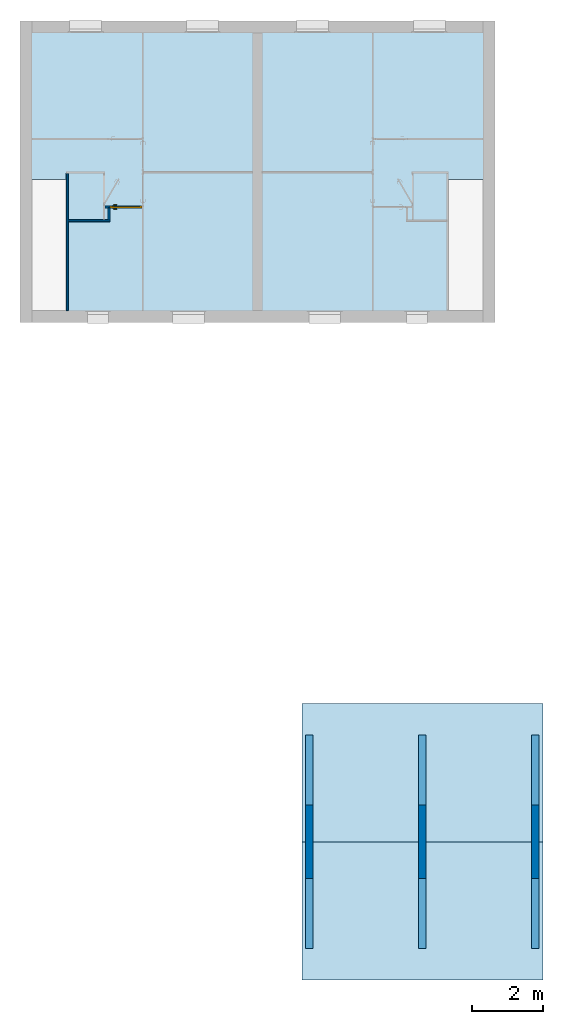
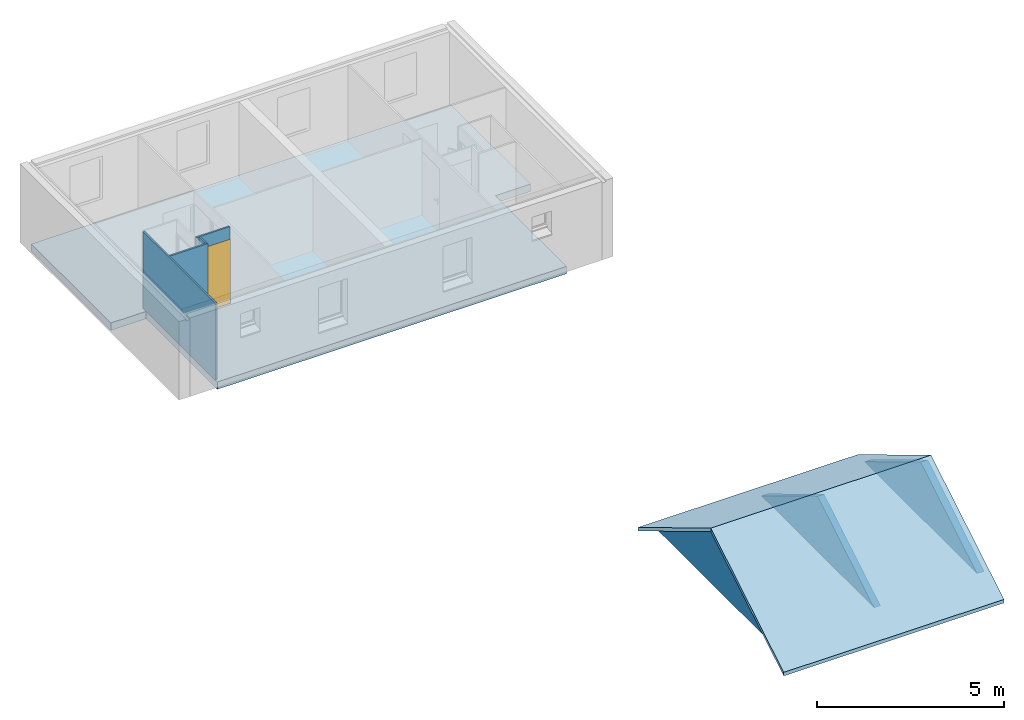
# One storey, part 1 of 13: 7 walls, 3 slabs, 1 door, 1 opening, 1 element without a shape of its own.
"""IFC2X3 building model written with IfcOpenShell, lengths in metres."""

from ifc_helpers import new_model, entity, si_unit, converted_unit, derived_unit, direction, frame, frame_2d, origin, place, context, subcontext, project, spatial, polyline, rectangle, outline, extrude, clip, halfspace, bounded_halfspace, faceted_brep, source, transform, mapped, material, material_list, layer, layer_set, layer_usage, type_object, type_shapes, element, fill, aggregate, save


model = new_model("IFC2X3")

# Units and contexts
model_context = context("Model", 3, precision=1e-05, world=origin(), true_north=direction((6.12303176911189e-17, 1.0)))
context_of_model = context(None, 3, precision=1e-05, world=origin(), true_north=direction((6.12303176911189e-17, 1.0)))
body_context = subcontext(model_context, "Body", "Model", "MODEL_VIEW")
ifc_project = project(units=[si_unit("LENGTHUNIT", "METRE"), si_unit("AREAUNIT", "SQUARE_METRE"), si_unit("VOLUMEUNIT", "CUBIC_METRE"), converted_unit("PLANEANGLEUNIT", "DEGREE", entity("IfcRatioMeasure", 0.0174532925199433), si_unit("PLANEANGLEUNIT", "RADIAN"), dimensions=[0, 0, 0, 0, 0, 0, 0]), si_unit("MASSUNIT", "GRAM", prefix="KILO"), si_unit("TIMEUNIT", "SECOND"), si_unit("FREQUENCYUNIT", "HERTZ"), si_unit("THERMODYNAMICTEMPERATUREUNIT", "DEGREE_CELSIUS"), derived_unit("THERMALTRANSMITTANCEUNIT", [(si_unit("MASSUNIT", "GRAM", prefix="KILO"), 1), (si_unit("THERMODYNAMICTEMPERATUREUNIT", "KELVIN"), -1), (si_unit("TIMEUNIT", "SECOND"), -3)]), derived_unit("VOLUMETRICFLOWRATEUNIT", [(si_unit("LENGTHUNIT", "METRE"), 3), (si_unit("TIMEUNIT", "SECOND"), -1)]), si_unit("ELECTRICCURRENTUNIT", "AMPERE"), si_unit("ELECTRICVOLTAGEUNIT", "VOLT"), si_unit("POWERUNIT", "WATT"), si_unit("FORCEUNIT", "NEWTON", prefix="KILO"), si_unit("ILLUMINANCEUNIT", "LUX"), si_unit("LUMINOUSFLUXUNIT", "LUMEN"), si_unit("LUMINOUSINTENSITYUNIT", "CANDELA"), derived_unit("USERDEFINED", [(si_unit("MASSUNIT", "GRAM", prefix="KILO"), -1), (si_unit("LENGTHUNIT", "METRE"), -2), (si_unit("TIMEUNIT", "SECOND"), 3), (si_unit("LUMINOUSFLUXUNIT", "LUMEN"), 1)]), derived_unit("LINEARVELOCITYUNIT", [(si_unit("LENGTHUNIT", "METRE"), 1), (si_unit("TIMEUNIT", "SECOND"), -1)]), si_unit("PRESSUREUNIT", "PASCAL"), derived_unit("USERDEFINED", [(si_unit("LENGTHUNIT", "METRE"), -2), (si_unit("MASSUNIT", "GRAM", prefix="KILO"), 1), (si_unit("TIMEUNIT", "SECOND"), -2)])], contexts=[model_context, context_of_model])

# Site, building, storey
site_placement = place(None, origin())
site = spatial("IfcSite", under=ifc_project, at=site_placement, Name="Surface", CompositionType="ELEMENT")
building_placement = place(site_placement, origin())
building = spatial("IfcBuilding", under=site, at=building_placement, CompositionType="ELEMENT")
storey_placement = place(building_placement, frame((0.0, 0.0, 2.74)))
storey = spatial("IfcBuildingStorey", under=building, at=storey_placement, Name="Plan étage", CompositionType="ELEMENT", Elevation=2.74)

# Slab
ifc_material_1 = material(Name="<Unnamed>")
ifc_layer_1 = layer(ifc_material_1, 0.01)
ifc_material_2 = material(Name="Maçonnerie - Béton")
ifc_layer_2 = layer(ifc_material_2, 0.22)
ifc_layer_3 = layer(ifc_material_1, 0.01)
ifc_layer_set_1 = layer_set([ifc_layer_1, ifc_layer_2, ifc_layer_3], Name="Sol:Dalle Béton -160 + 60 mm")
ifc_layer_usage_1 = layer_usage(ifc_layer_set_1, "AXIS3", "POSITIVE", 0.0)
slab_1_placement = place(storey_placement, origin())
element("IfcSlab", 1, at=slab_1_placement, inside=storey, material=ifc_layer_usage_1, Name="Sol:Dalle Béton -160 + 60 mm", ObjectType="Sol:Dalle Béton -160 + 60 mm", PredefinedType="FLOOR", context=body_context, shape_type="SweptSolid", body=[
    extrude(outline(polyline([(-0.112749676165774, -6.47999999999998), (4.14341655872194, -6.47999999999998), (4.14341655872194, 6.47999999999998), (-0.114083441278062, 6.47999999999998), (-0.114083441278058, 5.38999999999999), (-3.9165834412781, 5.38999999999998), (-3.9165834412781, -5.38999999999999), (-0.112749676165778, -5.38999999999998), (-0.112749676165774, -6.47999999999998)])), frame((-4.93608881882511, 1.32083922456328, 0.0), z_axis=(0.0, 0.0, -1.0), x_axis=(0.0, 1.0, 0.0)), (0.0, 0.0, 1.0), 0.24),
])

# Roof, slabs
roof_placement = place(storey_placement, frame((-3.68506493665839, -21.3735833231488, -0.530344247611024)))
roof = element("IfcRoof", 2, at=roof_placement, inside=storey, Name="Toit de base:Toit - 100 mm 2", ObjectType="Toit de base:Toit - 100 mm 2", ShapeType="NOTDEFINED")
ifc_material_3 = material(Name="Toit par défaut")
ifc_layer_4 = layer(ifc_material_3, 0.1)
ifc_layer_set_2 = layer_set([ifc_layer_4], Name="Toit de base:Toit - 100 mm 2")
slab_2_placement = place(roof_placement, origin())
slab_2 = element("IfcSlab", 3, at=slab_2_placement, material=ifc_layer_set_2, Name="Toit de base:Toit - 100 mm 2", ObjectType="Toit de base:Toit - 100 mm 2", PredefinedType="ROOF", context=body_context, shape_type="SweptSolid", body=[
    extrude(rectangle(XDim=6.80000000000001, YDim=4.54987024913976, at=frame_2d((1.99840144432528e-15, 3.77475828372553e-15), x_axis=(1.0, 0.0))), frame((3.40000000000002, 5.85000000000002, 1.17167820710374), z_axis=(0.0, 0.515038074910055, 0.857167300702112), x_axis=(1.0, 0.0, 0.0)), (0.0, -0.515038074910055, 0.857167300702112), 0.116663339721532),
])
slab_3_placement = place(roof_placement, origin())
slab_3 = element("IfcSlab", 4, at=slab_3_placement, material=ifc_layer_set_2, Name="Toit de base:Toit - 100 mm 2", ObjectType="Toit de base:Toit - 100 mm 2", PredefinedType="ROOF", context=body_context, shape_type="SweptSolid", body=[
    extrude(rectangle(XDim=4.5498702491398, YDim=6.8, at=frame_2d((0.0, 0.0), x_axis=(0.0, 1.0))), frame((3.4, 1.95000000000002, 1.17167820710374), z_axis=(0.0, -0.515038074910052, 0.857167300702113), x_axis=(1.0, 0.0, 0.0)), (0.0, 0.515038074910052, 0.857167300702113), 0.116663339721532),
])
aggregate(roof, [slab_2, slab_3])

# Walls
ifc_material_4 = material(Name="Maçonnerie - Isolant(1)")
ifc_layer_5 = layer(ifc_material_4, 0.05)
ifc_layer_set_3 = layer_set([ifc_layer_5], Name="Mur de base:Int. plâtre 50 mm")
ifc_layer_usage_2 = layer_usage(ifc_layer_set_3, "AXIS2", "NEGATIVE", 0.025)
wall_type_1 = type_object("IfcWallType", Name="Mur de base:Int. plâtre 50 mm", PredefinedType="STANDARD", material=ifc_layer_set_3)
wall_1_placement = place(storey_placement, frame((-9.10108881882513, 0.049255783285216, -0.00999999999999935), z_axis=(0.0, 0.0, 1.0), x_axis=(-1.0, 0.0, 0.0)))
element("IfcWallStandardCase", 5, at=wall_1_placement, inside=storey, type_object=wall_type_1, material=ifc_layer_usage_2, Name="Mur de base:Int. plâtre 50 mm", ObjectType="Mur de base:Int. plâtre 50 mm", context=body_context, shape_type="SweptSolid", body=[
    extrude(rectangle(XDim=1.17499999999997, YDim=0.05, at=frame_2d((0.587499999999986, 0.0), x_axis=(-1.0, 0.0))), origin(), (0.0, 0.0, 1.0), 2.51),
])
ifc_layer_usage_3 = layer_usage(ifc_layer_set_3, "AXIS2", "NEGATIVE", 0.025)
wall_2_placement = place(storey_placement, frame((-10.3010888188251, -2.48574421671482, -0.00999999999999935), z_axis=(0.0, 0.0, 1.0), x_axis=(0.0, 1.0, 0.0)))
element("IfcWallStandardCase", 6, at=wall_2_placement, inside=storey, type_object=wall_type_1, material=ifc_layer_usage_3, Name="Mur de base:Int. plâtre 50 mm", ObjectType="Mur de base:Int. plâtre 50 mm", context=body_context, shape_type="SweptSolid", body=[
    extrude(rectangle(XDim=3.87000000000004, YDim=0.0500000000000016, at=frame_2d((1.93500000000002, 0.0), x_axis=(-1.0, 0.0))), origin(), (0.0, 0.0, 1.0), 2.51),
])

# Wall, opening, door
ifc_layer_usage_4 = layer_usage(ifc_layer_set_3, "AXIS2", "NEGATIVE", 0.025)
wall_3_placement = place(storey_placement, frame((-9.24108881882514, 0.439255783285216, -0.00999999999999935)))
wall_3 = element("IfcWallStandardCase", 7, at=wall_3_placement, inside=storey, type_object=wall_type_1, material=ifc_layer_usage_4, Name="Mur de base:Int. plâtre 50 mm", ObjectType="Mur de base:Int. plâtre 50 mm", context=body_context, shape_type="SweptSolid", body=[
    extrude(rectangle(XDim=1.045, YDim=0.05, at=frame_2d((0.522499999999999, 0.0), x_axis=(-1.0, 0.0))), origin(), (0.0, 0.0, 1.0), 2.51),
])
opening_placement = place(wall_3_placement, frame((1.04250000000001, 0.025, 0.00999999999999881)))
opening = element("IfcOpeningElement", 8, at=opening_placement, cuts=wall_3, Name="Int. Simple:PP (0.83m x 2.04m):1", ObjectType="Opening", context=body_context, shape_type="SweptSolid", body=[
    extrude(rectangle(XDim=2.075, YDim=0.9, at=frame_2d((1.0375, 0.45), x_axis=(1.0, 0.0))), frame((0.0, 0.0, 0.0), z_axis=(0.0, -1.0, 0.0), x_axis=(0.0, 0.0, 1.0)), (0.0, 0.0, 1.0), 0.05),
])
ifc_material_5 = material(Name="Finition Peinture - Blanc satiné")
ifc_material_6 = material(Name="Bois - Panneau de porte")
ifc_material_7 = material(Name="Bois - Cadre de porte")
ifc_material_list_1 = material_list([ifc_material_5, ifc_material_6, ifc_material_7])
ifc_material_list_2 = material_list([ifc_material_5, ifc_material_6, ifc_material_7])
door_style = type_object("IfcDoorStyle", Name="PP (0.83m x 2.04m)", ConstructionType="NOTDEFINED", OperationType="SINGLE_SWING_LEFT", ParameterTakesPrecedence=False, Sizeable=False, material=ifc_material_list_2)
shared_shape = source(origin(), body_context, "Body", "Brep", [
    faceted_brep([(0.105352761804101, -0.00500000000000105, 0.866003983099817), (0.115, -0.00500000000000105, 0.870000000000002), (0.114999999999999, -0.00500000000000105, 1.08), (0.1053527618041, -0.00500000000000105, 1.08399601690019), (0.0949999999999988, -0.00500000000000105, 1.08535898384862), (0.0846472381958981, -0.00500000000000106, 1.08399601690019), (0.0749999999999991, -0.00500000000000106, 1.08), (0.0750000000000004, -0.00500000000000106, 0.870000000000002), (0.0846472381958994, -0.00500000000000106, 0.866003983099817), (0.0950000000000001, -0.00500000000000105, 0.86464101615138), (0.1053527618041, 0.0, 1.08399601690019), (0.114999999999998, 0.0, 1.08), (0.115, 0.0, 0.870000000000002), (0.105352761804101, 0.0, 0.866003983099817), (0.0950000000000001, 0.0, 0.86464101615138), (0.0846472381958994, 0.0, 0.866003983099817), (0.0749999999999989, 0.0, 0.870000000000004), (0.0749999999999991, 0.0, 1.08), (0.0846472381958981, 0.0, 1.08399601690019), (0.0949999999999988, 0.0, 1.08535898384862)], [[[0, 1, 2, 3, 4, 5, 6, 7, 8, 9]], [[10, 11, 12, 13, 14, 15, 16, 17, 18, 19]], [[16, 15, 8, 7]], [[8, 15, 14, 9]], [[14, 13, 0, 9]], [[13, 12, 1, 0]], [[2, 1, 12, 11]], [[11, 10, 3, 2]], [[3, 10, 19, 4]], [[19, 18, 5, 4]], [[18, 17, 6, 5]], [[7, 6, 17, 16]]]),
    faceted_brep([(0.105352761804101, 0.0399999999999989, 0.866003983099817), (0.115, 0.0399999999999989, 0.870000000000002), (0.114999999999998, 0.0399999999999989, 1.08), (0.105352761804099, 0.0399999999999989, 1.08399601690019), (0.0949999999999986, 0.0399999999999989, 1.08535898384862), (0.084647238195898, 0.0399999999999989, 1.08399601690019), (0.0749999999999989, 0.0399999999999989, 1.08), (0.0750000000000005, 0.0399999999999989, 0.870000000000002), (0.0846472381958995, 0.0399999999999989, 0.866003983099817), (0.0950000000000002, 0.0399999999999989, 0.86464101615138), (0.105352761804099, 0.0449999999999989, 1.08399601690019), (0.114999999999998, 0.0449999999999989, 1.08), (0.115, 0.0449999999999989, 0.870000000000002), (0.105352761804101, 0.0449999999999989, 0.866003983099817), (0.0950000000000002, 0.0449999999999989, 0.86464101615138), (0.0846472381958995, 0.0449999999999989, 0.866003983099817), (0.0749999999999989, 0.0449999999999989, 0.870000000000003), (0.0749999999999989, 0.0449999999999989, 1.08), (0.084647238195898, 0.0449999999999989, 1.08399601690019), (0.0949999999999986, 0.0449999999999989, 1.08535898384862)], [[[0, 1, 2, 3, 4, 5, 6, 7, 8, 9]], [[10, 11, 12, 13, 14, 15, 16, 17, 18, 19]], [[11, 10, 3, 2]], [[3, 10, 19, 4]], [[19, 18, 5, 4]], [[18, 17, 6, 5]], [[7, 6, 17, 16]], [[16, 15, 8, 7]], [[8, 15, 14, 9]], [[14, 13, 0, 9]], [[13, 12, 1, 0]], [[2, 1, 12, 11]]]),
    faceted_brep([(0.0929747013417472, -0.00500000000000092, 1.00778044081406), (0.0970252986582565, -0.0050000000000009, 1.00778044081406), (0.101000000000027, -0.00500000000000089, 1.00699999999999), (0.101000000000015, -0.00500000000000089, 0.993000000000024), (0.0970252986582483, -0.0050000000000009, 0.992219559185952), (0.0929747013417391, -0.00500000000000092, 0.99221955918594), (0.0889999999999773, -0.00500000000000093, 0.992999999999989), (0.0889999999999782, -0.00500000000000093, 1.007), (0.0889999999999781, -0.0326509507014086, 1.007), (0.092974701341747, -0.0310045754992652, 1.00778044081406), (0.10902358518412, -0.0470534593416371, 1.00778044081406), (0.110701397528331, -0.0430028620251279, 1.00778044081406), (0.0970252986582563, -0.0293267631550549, 1.00778044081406), (0.101000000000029, -0.0276803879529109, 1.007), (0.101000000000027, -0.0276803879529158, 0.993000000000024), (0.0970252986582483, -0.0293267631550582, 0.992219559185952), (0.110701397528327, -0.0430028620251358, 0.992219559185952), (0.109023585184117, -0.047053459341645, 0.99221955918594), (0.0929747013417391, -0.0310045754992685, 0.99221955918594), (0.0889999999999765, -0.0326509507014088, 0.992999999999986), (0.107377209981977, -0.0510281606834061, 1.007), (0.112347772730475, -0.0390281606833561, 1.007), (0.112347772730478, -0.0390281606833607, 0.993000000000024), (0.107377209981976, -0.0510281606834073, 0.992999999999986), (0.195018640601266, -0.0510281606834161, 0.992999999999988), (0.195018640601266, -0.0470534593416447, 0.99221955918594), (0.195018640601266, -0.0430028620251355, 0.992219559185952), (0.195018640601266, -0.039028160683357, 0.993000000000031), (0.195018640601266, -0.0390281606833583, 1.007), (0.195018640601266, -0.0430028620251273, 1.00778044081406), (0.195018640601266, -0.0470534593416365, 1.00778044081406), (0.195018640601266, -0.0510281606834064, 1.00699999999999), (0.147307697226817, -0.0510281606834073, 1.007), (0.152860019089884, -0.045028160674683, 1.0078786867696), (0.15368320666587, -0.039028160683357, 1.007), (0.153683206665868, -0.0390281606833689, 0.993000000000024), (0.152860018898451, -0.0450281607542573, 0.992121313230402), (0.147307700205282, -0.0510281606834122, 0.992999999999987)], [[[0, 1, 2, 3, 4, 5, 6, 7]], [[8, 9, 0, 7]], [[9, 10, 11, 12, 1, 0]], [[12, 13, 2, 1]], [[3, 2, 13, 14]], [[14, 15, 4, 3]], [[15, 16, 17, 18, 5, 4]], [[18, 19, 6, 5]], [[7, 6, 19, 8]], [[20, 10, 9, 8]], [[11, 21, 13, 12]], [[14, 13, 21, 22]], [[22, 16, 15, 14]], [[17, 23, 19, 18]], [[8, 19, 23, 20]], [[24, 25, 26, 27, 28, 29, 30, 31]], [[32, 30, 33]], [[31, 30, 32]], [[10, 20, 32]], [[33, 34, 11]], [[21, 11, 34]], [[34, 29, 28]], [[30, 29, 33]], [[29, 34, 33]], [[10, 32, 33]], [[10, 33, 11]], [[22, 21, 34, 28, 27, 35]], [[35, 26, 36]], [[37, 36, 25]], [[22, 35, 16]], [[35, 27, 26]], [[24, 37, 25]], [[23, 17, 37]], [[37, 17, 36]], [[17, 16, 36]], [[16, 35, 36]], [[25, 36, 26]], [[20, 23, 37, 24, 31, 32]]]),
    faceted_brep([(0.0929747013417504, 0.0449999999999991, 1.00778044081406), (0.0889999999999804, 0.044999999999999, 1.007), (0.0889999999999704, 0.044999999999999, 0.992999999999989), (0.0929747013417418, 0.0449999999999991, 0.99221955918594), (0.0970252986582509, 0.0449999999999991, 0.992219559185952), (0.10100000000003, 0.0449999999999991, 0.993000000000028), (0.101000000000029, 0.0449999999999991, 1.007), (0.0970252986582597, 0.0449999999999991, 1.00778044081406), (0.10100000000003, 0.067485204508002, 0.993000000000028), (0.10100000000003, 0.0674852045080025, 1.007), (0.0970252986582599, 0.0691315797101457, 1.00778044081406), (0.110838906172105, 0.0829451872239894, 1.00778044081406), (0.109161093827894, 0.0869957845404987, 1.00778044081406), (0.0929747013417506, 0.070809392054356, 1.00778044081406), (0.0889999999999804, 0.0724557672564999, 1.007), (0.0889999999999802, 0.072455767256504, 0.992999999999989), (0.0929747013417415, 0.0708093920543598, 0.99221955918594), (0.109161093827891, 0.0869957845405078, 0.99221955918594), (0.110838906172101, 0.0829451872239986, 0.992219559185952), (0.0970252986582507, 0.0691315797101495, 0.992219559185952), (0.112485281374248, 0.0789704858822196, 0.993000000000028), (0.112485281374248, 0.0789704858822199, 1.007), (0.107514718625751, 0.0909704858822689, 1.007), (0.107514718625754, 0.090970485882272, 0.992999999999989), (0.195045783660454, 0.0789704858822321, 0.993000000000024), (0.195045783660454, 0.0829451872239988, 0.992219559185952), (0.195045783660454, 0.086995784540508, 0.99221955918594), (0.195045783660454, 0.0909704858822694, 0.992999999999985), (0.195045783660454, 0.0909704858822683, 1.007), (0.195045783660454, 0.0869957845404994, 1.00778044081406), (0.195045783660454, 0.0829451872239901, 1.00778044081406), (0.195045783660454, 0.0789704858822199, 1.007), (0.153765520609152, 0.0789704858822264, 0.993000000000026), (0.153765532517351, 0.0789704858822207, 1.007), (0.152942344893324, 0.0849704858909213, 1.0078786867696), (0.147445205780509, 0.0909704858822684, 1.007), (0.147445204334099, 0.0909704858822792, 0.992999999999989), (0.152942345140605, 0.0849704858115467, 0.992121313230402)], [[[0, 1, 2, 3, 4, 5, 6, 7]], [[6, 5, 8, 9]], [[9, 10, 7, 6]], [[10, 11, 12, 13, 0, 7]], [[13, 14, 1, 0]], [[2, 1, 14, 15]], [[15, 16, 3, 2]], [[16, 17, 18, 19, 4, 3]], [[19, 8, 5, 4]], [[9, 8, 20, 21]], [[21, 11, 10, 9]], [[12, 22, 14, 13]], [[15, 14, 22, 23]], [[23, 17, 16, 15]], [[18, 20, 8, 19]], [[24, 25, 26, 27, 28, 29, 30, 31]], [[21, 20, 32, 24, 31, 33]], [[33, 30, 34]], [[35, 34, 29]], [[21, 33, 11]], [[33, 31, 30]], [[28, 35, 29]], [[22, 12, 35]], [[35, 12, 34]], [[12, 11, 34]], [[11, 33, 34]], [[29, 34, 30]], [[22, 35, 28, 27, 36, 23]], [[36, 26, 37]], [[27, 26, 36]], [[17, 23, 36]], [[37, 32, 18]], [[20, 18, 32]], [[32, 25, 24]], [[26, 25, 37]], [[25, 32, 37]], [[17, 36, 37]], [[17, 37, 18]]]),
    faceted_brep([(0.034999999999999, 0.04, 2.04), (0.865, 0.04, 2.04), (0.864999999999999, 0.04, 0.0), (0.034999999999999, 0.04, 0.0), (0.034999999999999, 0.0, 2.04), (0.034999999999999, 0.0, 0.0), (0.864999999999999, 0.0, 0.0), (0.865, 0.0, 2.04)], [[[0, 1, 2, 3]], [[4, 5, 6, 7]], [[1, 0, 4, 7]], [[2, 1, 7, 6]], [[3, 2, 6, 5]], [[0, 3, 5, 4]]]),
    faceted_brep([(0.0, 0.0, 0.0), (0.0, 0.050000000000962, 0.0), (0.0499999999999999, 0.050000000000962, 0.0), (0.0499999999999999, 0.040000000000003, 0.0), (0.0349999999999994, 0.040000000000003, 0.0), (0.0349999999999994, 0.0, 0.0), (0.0, 0.0, 2.07500000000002), (0.0, 0.050000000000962, 2.07500000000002), (0.900000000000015, 0.050000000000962, 2.07500000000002), (0.900000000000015, 0.050000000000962, 0.0), (0.85, 0.050000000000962, 0.0), (0.85, 0.050000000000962, 2.025), (0.0500000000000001, 0.050000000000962, 2.025), (0.05, 0.040000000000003, 2.025), (0.85, 0.040000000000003, 2.025), (0.85, 0.040000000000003, 0.0), (0.865, 0.040000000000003, 0.0), (0.865, 0.040000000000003, 2.04), (0.0349999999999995, 0.040000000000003, 2.04), (0.0349999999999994, 0.0, 2.04), (0.865, 0.0, 2.04), (0.865, 0.0, 0.0), (0.900000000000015, 0.0, 0.0), (0.900000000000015, 0.0, 2.07500000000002)], [[[0, 1, 2, 3, 4, 5]], [[1, 0, 6, 7]], [[2, 1, 7, 8, 9, 10, 11, 12]], [[3, 2, 12, 13]], [[4, 3, 13, 14, 15, 16, 17, 18]], [[5, 4, 18, 19]], [[0, 5, 19, 20, 21, 22, 23, 6]], [[8, 23, 22, 9]], [[22, 21, 16, 15, 10, 9]], [[14, 11, 10, 15]], [[20, 17, 16, 21]], [[7, 6, 23, 8]], [[13, 12, 11, 14]], [[19, 18, 17, 20]]]),
    faceted_brep([(0.0149999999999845, 0.050000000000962, 0.0), (-0.0150000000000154, 0.050000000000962, 0.0), (-0.0150000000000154, 0.055000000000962, 0.0), (0.0149999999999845, 0.055000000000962, 0.0), (0.0149999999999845, 0.050000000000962, 2.06000000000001), (0.884999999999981, 0.050000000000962, 2.06000000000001), (0.88499999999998, 0.050000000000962, 0.0), (0.91499999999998, 0.050000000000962, 0.0), (0.91499999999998, 0.050000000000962, 2.09000000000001), (-0.0150000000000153, 0.050000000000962, 2.09000000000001), (-0.0150000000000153, 0.055000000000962, 2.09000000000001), (0.91499999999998, 0.055000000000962, 2.09000000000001), (0.91499999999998, 0.055000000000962, 0.0), (0.88499999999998, 0.055000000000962, 0.0), (0.88499999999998, 0.055000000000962, 2.06000000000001), (0.0149999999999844, 0.055000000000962, 2.06000000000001)], [[[0, 1, 2, 3]], [[1, 0, 4, 5, 6, 7, 8, 9]], [[2, 1, 9, 10]], [[3, 2, 10, 11, 12, 13, 14, 15]], [[0, 3, 15, 4]], [[6, 13, 12, 7]], [[5, 14, 13, 6]], [[11, 8, 7, 12]], [[10, 9, 8, 11]], [[4, 15, 14, 5]]]),
    faceted_brep([(-0.0150000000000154, -0.005, 0.0), (0.0149999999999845, -0.005, 0.0), (0.0149999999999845, -0.005, 2.06000000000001), (0.884999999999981, -0.005, 2.06000000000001), (0.88499999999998, -0.005, 0.0), (0.91499999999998, -0.005, 0.0), (0.91499999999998, -0.005, 2.09000000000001), (-0.0150000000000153, -0.005, 2.09000000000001), (-0.0150000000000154, 0.0, 0.0), (-0.0150000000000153, 0.0, 2.09000000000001), (0.0149999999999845, 0.0, 0.0), (0.91499999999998, 0.0, 2.09000000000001), (0.91499999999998, 0.0, 0.0), (0.88499999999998, 0.0, 0.0), (0.88499999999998, 0.0, 2.06000000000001), (0.0149999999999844, 0.0, 2.06000000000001)], [[[0, 1, 2, 3, 4, 5, 6, 7]], [[8, 0, 7, 9]], [[10, 8, 9, 11, 12, 13, 14, 15]], [[1, 10, 15, 2]], [[3, 14, 13, 4]], [[11, 6, 5, 12]], [[9, 7, 6, 11]], [[2, 15, 14, 3]], [[4, 13, 12, 5]], [[1, 0, 8, 10]]]),
])
type_shapes(door_style, [shared_shape])
door_placement = place(opening_placement, frame((-0.899999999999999, -0.05, 0.0)))
door = element("IfcDoor", 9, at=door_placement, inside=storey, type_object=door_style, material=ifc_material_list_1, Name="Int. Simple:PP (0.83m x 2.04m)", ObjectType="PP (0.83m x 2.04m)", OverallHeight=2.075, OverallWidth=0.9, context=body_context, shape_type="MappedRepresentation", body=[
    mapped(shared_shape, transform((0.0, 0.0, 0.0), scale=1.0)),
])
fill(opening, door)

# Walls
ifc_layer_usage_5 = layer_usage(ifc_layer_set_3, "AXIS2", "NEGATIVE", 0.025)
wall_4_placement = place(storey_placement, frame((-9.12608881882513, 0.414255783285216, -0.00999999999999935), z_axis=(0.0, 0.0, 1.0), x_axis=(0.0, -1.0, 0.0)))
element("IfcWallStandardCase", 10, at=wall_4_placement, inside=storey, type_object=wall_type_1, material=ifc_layer_usage_5, Name="Mur de base:Int. plâtre 50 mm", ObjectType="Mur de base:Int. plâtre 50 mm", context=body_context, shape_type="SweptSolid", body=[
    extrude(rectangle(XDim=0.34, YDim=0.0499999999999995, at=frame_2d((0.17, 0.0), x_axis=(-1.0, 0.0))), origin(), (0.0, 0.0, 1.0), 2.51),
])
ifc_material_8 = material(Name="Maçonnerie - Enduit")
ifc_layer_6 = layer(ifc_material_8, 0.02)
ifc_layer_7 = layer(ifc_material_2, 0.2)
ifc_layer_set_4 = layer_set([ifc_layer_6, ifc_layer_7], Name="Mur de base:Ext.BBM + enduit 22")
ifc_layer_usage_6 = layer_usage(ifc_layer_set_4, "AXIS2", "NEGATIVE", 0.11)
wall_type_2 = type_object("IfcWallType", Name="Mur de base:Ext.BBM + enduit 22", PredefinedType="STANDARD", material=ifc_layer_set_4)
wall_5_placement = place(storey_placement, frame((2.90493506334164, -14.1935833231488, 0.0), z_axis=(0.0, 0.0, 1.0), x_axis=(0.0, -1.0, 0.0)))
element("IfcWallStandardCase", 11, at=wall_5_placement, inside=storey, type_object=wall_type_2, material=ifc_layer_usage_6, Name="Mur de base:Ext.BBM + enduit 22", ObjectType="Mur de base:Ext.BBM + enduit 22", context=body_context, shape_type="Clipping", body=[
    clip(clip(clip(extrude(rectangle(XDim=6.78000000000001, YDim=0.22, at=frame_2d((3.39, 1.38777878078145e-17), x_axis=(-1.0, 0.0))), origin(), (0.0, 0.0, 1.0), 1.81301216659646), bounded_halfspace(frame((0.0, -0.11, -0.157810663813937), z_axis=(-0.515038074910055, 0.0, 0.857167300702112), x_axis=(0.0, -1.0, 0.0)), False, frame((0.0, -0.11, -0.157810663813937)), polyline([(0.0, 0.0), (3.27999999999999, 0.0), (3.27999999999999, 0.22), (0.0, 0.22), (0.0, 0.0)]))), bounded_halfspace(frame((3.27999999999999, -0.11, 1.81301216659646), z_axis=(0.515038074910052, 0.0, 0.857167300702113), x_axis=(0.0, 1.0, 0.0)), False, frame((3.27999999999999, -0.11, 1.81301216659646)), polyline([(0.0, 0.0), (3.28000000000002, 0.0), (3.50000000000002, 0.0), (3.50000000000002, 0.22), (0.0, 0.22), (0.0, 0.0)]))), halfspace(frame((0.0, 0.0, -2.74)), True)),
])
ifc_layer_usage_7 = layer_usage(ifc_layer_set_4, "AXIS2", "NEGATIVE", 0.11)
wall_6_placement = place(storey_placement, frame((-3.47506493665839, -20.7535833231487, 0.0), z_axis=(0.0, 0.0, 1.0), x_axis=(0.0, 1.0, 0.0)))
element("IfcWallStandardCase", 12, at=wall_6_placement, inside=storey, type_object=wall_type_2, material=ifc_layer_usage_7, Name="Mur de base:Ext.BBM + enduit 22", ObjectType="Mur de base:Ext.BBM + enduit 22", context=body_context, shape_type="Clipping", body=[
    clip(clip(clip(extrude(rectangle(XDim=6.55999999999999, YDim=0.22, at=frame_2d((3.28, 0.0), x_axis=(-1.0, 0.0))), origin(), (0.0, 0.0, 1.0), 1.81301216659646), bounded_halfspace(frame((3.28000000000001, -0.11, 1.81301216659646), z_axis=(0.515038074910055, 0.0, 0.857167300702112), x_axis=(0.0, 1.0, 0.0)), False, frame((3.28000000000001, -0.11, 1.81301216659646)), polyline([(0.0, 0.0), (3.27999999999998, 0.0), (3.27999999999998, 0.22), (0.0, 0.22), (0.0, 0.0)]))), bounded_halfspace(frame((0.0, -0.11, -0.157810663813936), z_axis=(-0.515038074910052, 0.0, 0.857167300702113), x_axis=(0.0, -1.0, 0.0)), False, frame((0.0, -0.11, -0.157810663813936)), polyline([(0.0, 0.0), (3.28000000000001, 0.0), (3.28000000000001, 0.22), (0.0, 0.22), (0.0, 0.0)]))), halfspace(frame((0.0, 0.0, -2.74)), True)),
])
ifc_material_9 = material(Name="Mur par défaut")
ifc_layer_8 = layer(ifc_material_9, 0.2)
ifc_layer_set_5 = layer_set([ifc_layer_8], Name="Mur de base:Ext.BBM 20 cm")
ifc_layer_usage_8 = layer_usage(ifc_layer_set_5, "AXIS2", "NEGATIVE", 0.1)
wall_type_3 = type_object("IfcWallType", Name="Mur de base:Ext.BBM 20 cm", PredefinedType="STANDARD", material=ifc_layer_set_5)
wall_7_placement = place(storey_placement, frame((-0.285064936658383, -20.7535833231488, 0.0), z_axis=(0.0, 0.0, 1.0), x_axis=(0.0, 1.0, 0.0)))
element("IfcWallStandardCase", 13, at=wall_7_placement, inside=storey, type_object=wall_type_3, material=ifc_layer_usage_8, Name="Mur de base:Ext.BBM 20 cm", ObjectType="Mur de base:Ext.BBM 20 cm", context=body_context, shape_type="Clipping", body=[
    clip(clip(clip(extrude(rectangle(XDim=6.55999999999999, YDim=0.2, at=frame_2d((3.28, 0.0), x_axis=(-1.0, 0.0))), origin(), (0.0, 0.0, 1.0), 1.81301216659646), bounded_halfspace(frame((3.28000000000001, -0.1, 1.81301216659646), z_axis=(0.515038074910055, 0.0, 0.857167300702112), x_axis=(0.0, 1.0, 0.0)), False, frame((3.28000000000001, -0.1, 1.81301216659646)), polyline([(0.0, 0.0), (3.27999999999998, 0.0), (3.27999999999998, 0.2), (0.0, 0.2), (0.0, 0.0)]))), bounded_halfspace(frame((0.0, -0.1, -0.157810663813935), z_axis=(-0.515038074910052, 0.0, 0.857167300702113), x_axis=(0.0, -1.0, 0.0)), False, frame((0.0, -0.1, -0.157810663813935)), polyline([(0.0, 0.0), (3.28000000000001, 0.0), (3.28000000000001, 0.200000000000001), (0.0, 0.2), (0.0, 0.0)]))), halfspace(frame((0.0, 0.0, -2.74)), True)),
])

save(model, "model.ifc")
